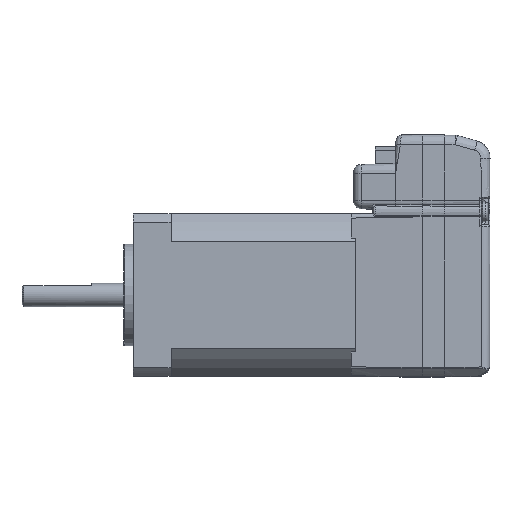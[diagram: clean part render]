
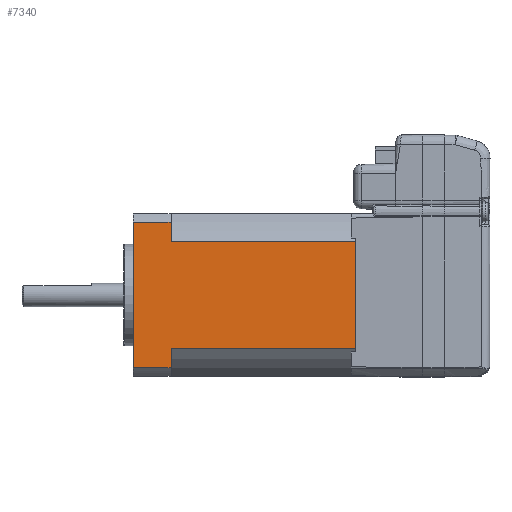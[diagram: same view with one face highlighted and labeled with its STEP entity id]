
A CAD part, left-side view. The second image highlights one B-rep face of the part: STEP entity #7340.
In plain terms, the highlighted planar face has unit normal (-1, 0, 0).
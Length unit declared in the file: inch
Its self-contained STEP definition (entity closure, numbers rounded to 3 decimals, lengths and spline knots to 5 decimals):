
#2519=EDGE_CURVE('MDI 14, Plus, 12 Pin JST[1]',#7903,#7904,#7905,.F.);
#3100=EDGE_CURVE('MDI 14, Plus, 12 Pin JST[1]',#8869,#8870,#8871,.T.);
#4184=EDGE_CURVE('MDI 14, Plus, 12 Pin JST[1]',#10466,#8869,#10467,.F.);
#5189=EDGE_CURVE('MDI 14, Plus, 12 Pin JST[1]',#7903,#8249,#11814,.T.);
#5324=EDGE_CURVE('MDI 14, Plus, 12 Pin JST[1]',#11990,#11690,#11991,.T.);
#5473=EDGE_CURVE('MDI 14, Plus, 12 Pin JST[1]',#8249,#8870,#12176,.T.);
#7141=EDGE_CURVE('MDI 14, Plus, 12 Pin JST[1]',#10466,#11690,#14147,.T.);
#7340=ADVANCED_FACE('MDI 14, Plus, 12 Pin JST[1]',(#14382),#14383,.T.);
#7495=EDGE_CURVE('MDI 14, Plus, 12 Pin JST[1]',#11990,#7904,#14553,.T.);
#7903=VERTEX_POINT('',#16405);
#7904=VERTEX_POINT('',#16406);
#7905=LINE('',#16407,#16408);
#8249=VERTEX_POINT('',#17697);
#8869=VERTEX_POINT('',#20740);
#8870=VERTEX_POINT('',#20741);
#8871=LINE('',#20742,#20743);
#10466=VERTEX_POINT('',#29484);
#10467=LINE('',#29485,#29486);
#11690=VERTEX_POINT('',#34399);
#11814=LINE('',#34796,#34797);
#11990=VERTEX_POINT('',#35992);
#11991=LINE('',#35993,#35994);
#12176=LINE('',#36893,#36894);
#14147=LINE('',#46710,#46711);
#14382=FACE_OUTER_BOUND('',#48013,.T.);
#14383=PLANE('',#48014);
#14553=LINE('',#48696,#48697);
#16405=CARTESIAN_POINT('',(-1.54316,3.12016,0.56347));
#16406=CARTESIAN_POINT('',(-1.54316,3.12016,0.40277));
#16407=CARTESIAN_POINT('',(-1.54316,3.12016,0.25529));
#16408=VECTOR('',#49460,1.0);
#17697=CARTESIAN_POINT('',(-1.54316,3.44116,0.56347));
#20740=CARTESIAN_POINT('',(-1.54316,3.12016,-0.66924));
#20741=CARTESIAN_POINT('',(-1.54316,3.44116,-0.66924));
#20742=CARTESIAN_POINT('',(-1.54316,3.18016,-0.66924));
#20743=VECTOR('',#50223,1.0);
#29484=CARTESIAN_POINT('',(-1.54316,3.12016,-0.50854));
#29485=CARTESIAN_POINT('',(-1.54316,3.12016,0.25529));
#29486=VECTOR('',#51729,1.0);
#34399=CARTESIAN_POINT('',(-1.54316,1.54966,-0.50854));
#34796=CARTESIAN_POINT('',(-1.54316,3.18016,0.56347));
#34797=VECTOR('',#53066,1.0);
#35992=CARTESIAN_POINT('',(-1.54316,1.54966,0.40277));
#35993=CARTESIAN_POINT('',(-1.54316,1.54966,-0.36375));
#35994=VECTOR('',#53262,1.0);
#36893=CARTESIAN_POINT('',(-1.54316,3.44116,0.56347));
#36894=VECTOR('',#53463,1.0);
#46710=CARTESIAN_POINT('',(-1.54316,1.74466,-0.50854));
#46711=VECTOR('',#55619,1.0);
#48013=EDGE_LOOP('',(#55914,#55915,#55916,#55917,#55918,#55919,#55920,#55921));
#48014=AXIS2_PLACEMENT_3D('',#55922,#55923,#55924);
#48696=CARTESIAN_POINT('',(-1.54316,1.74466,0.40277));
#48697=VECTOR('',#56095,1.0);
#49460=DIRECTION('',(0.0,0.,1.0));
#50223=DIRECTION('',(0.0,1.0,0.0));
#51729=DIRECTION('',(0.0,0.,1.0));
#53066=DIRECTION('',(0.0,1.0,0.0));
#53262=DIRECTION('',(0.0,0.0,-1.0));
#53463=DIRECTION('',(0.0,0.0,-1.0));
#55619=DIRECTION('',(-0.0,-1.0,-0.0));
#55914=ORIENTED_EDGE('',*,*,#4184,.F.);
#55915=ORIENTED_EDGE('',*,*,#7141,.T.);
#55916=ORIENTED_EDGE('',*,*,#5324,.F.);
#55917=ORIENTED_EDGE('',*,*,#7495,.T.);
#55918=ORIENTED_EDGE('',*,*,#2519,.F.);
#55919=ORIENTED_EDGE('',*,*,#5189,.T.);
#55920=ORIENTED_EDGE('',*,*,#5473,.T.);
#55921=ORIENTED_EDGE('',*,*,#3100,.F.);
#55922=CARTESIAN_POINT('',(-1.54316,2.00953,0.37018));
#55923=DIRECTION('',(-1.0,0.0,0.0));
#55924=DIRECTION('',(0.0,0.0,1.0));
#56095=DIRECTION('',(0.0,1.0,0.0));
